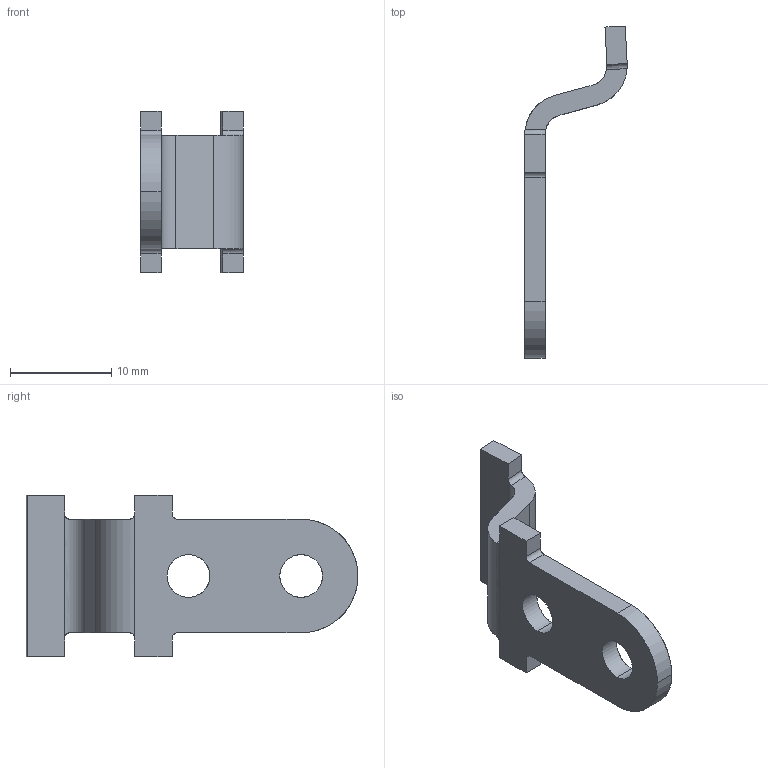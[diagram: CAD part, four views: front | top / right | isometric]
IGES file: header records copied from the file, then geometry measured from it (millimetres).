
Start section: SolidWorks IGES FILE using analytic representation for surfaces
Global section: file name: C:\WINNT\Profiles\cbrechard\Bureau\GE 1003\06.020.00.IGS; native system: SolidWorks 2001Plus by SolidWorks Corporation; preprocessor: Version 5.3; author: CBRECHARD; date: 050124.100340; units: millimetre
Bounding box: 10.1 x 32.7 x 15.9 mm (x, y, z)
Surface area: 1100.8 mm2 (no closed solid volume)
Topology: 0 solids, 0 shells, 96 faces, 621 edges, 562 vertices
Faces by surface type: revolution 75, bspline 21
